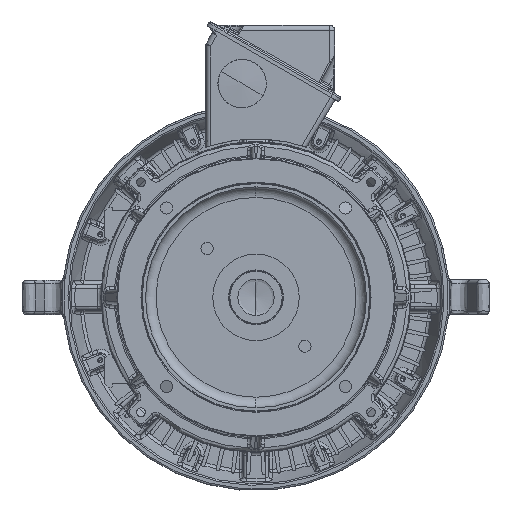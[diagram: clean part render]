
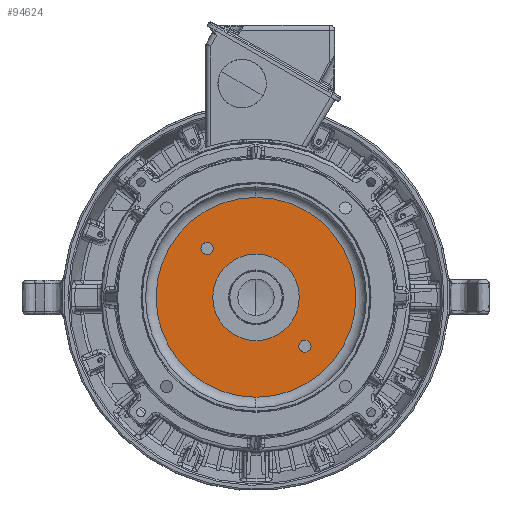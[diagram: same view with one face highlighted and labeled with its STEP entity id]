
A CAD part, front view. The second image highlights one B-rep face of the part: STEP entity #94624.
In plain terms, the highlighted planar face has unit normal (0, -1, 0) as drawn and (0, 0, -1) by its records, which use the part's own axes.
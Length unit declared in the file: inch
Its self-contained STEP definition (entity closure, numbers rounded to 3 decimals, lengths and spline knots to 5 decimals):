
#75605=CARTESIAN_POINT('',(0.,0.,-3.91));
#75606=DIRECTION('',(0.,0.,-1.));
#75607=DIRECTION('',(0.,1.,0.));
#75608=AXIS2_PLACEMENT_3D('',#75605,#75606,#75607);
#75610=CARTESIAN_POINT('',(0.,0.,-3.91));
#75611=DIRECTION('',(0.,0.,1.));
#75612=DIRECTION('',(0.,1.,0.));
#75613=AXIS2_PLACEMENT_3D('',#75610,#75611,#75612);
#75615=CARTESIAN_POINT('',(1.76777,1.76777,-3.91));
#75616=DIRECTION('',(0.,0.,-1.));
#75617=DIRECTION('',(-1.,0.,0.));
#75618=AXIS2_PLACEMENT_3D('',#75615,#75616,#75617);
#75620=CARTESIAN_POINT('',(1.76777,1.76777,-3.91));
#75621=DIRECTION('',(0.,0.,-1.));
#75622=DIRECTION('',(1.,0.,0.));
#75623=AXIS2_PLACEMENT_3D('',#75620,#75621,#75622);
#75625=CARTESIAN_POINT('',(-1.76777,-1.76777,-3.91));
#75626=DIRECTION('',(0.,0.,-1.));
#75627=DIRECTION('',(-1.,0.,0.));
#75628=AXIS2_PLACEMENT_3D('',#75625,#75626,#75627);
#75630=CARTESIAN_POINT('',(-1.76777,-1.76777,-3.91));
#75631=DIRECTION('',(0.,0.,-1.));
#75632=DIRECTION('',(1.,0.,0.));
#75633=AXIS2_PLACEMENT_3D('',#75630,#75631,#75632);
#75635=CARTESIAN_POINT('',(0.,0.,-3.91));
#75636=DIRECTION('',(0.,0.,1.));
#75637=DIRECTION('',(0.,1.,0.));
#75638=AXIS2_PLACEMENT_3D('',#75635,#75636,#75637);
#75640=CARTESIAN_POINT('',(0.,0.,-3.91));
#75641=DIRECTION('',(0.,0.,1.));
#75642=DIRECTION('',(0.,-1.,0.));
#75643=AXIS2_PLACEMENT_3D('',#75640,#75641,#75642);
#91124=CARTESIAN_POINT('',(0.,3.6094,-3.91));
#91126=VERTEX_POINT('',#91124);
#91128=CARTESIAN_POINT('',(0.,-3.6094,-3.91));
#91130=VERTEX_POINT('',#91128);
#91467=CARTESIAN_POINT('',(1.54877,1.76777,-3.91));
#91468=CARTESIAN_POINT('',(1.98677,1.76777,-3.91));
#91469=VERTEX_POINT('',#91467);
#91470=VERTEX_POINT('',#91468);
#91475=CARTESIAN_POINT('',(-1.98677,-1.76777,-3.91));
#91476=CARTESIAN_POINT('',(-1.54877,-1.76777,-3.91));
#91477=VERTEX_POINT('',#91475);
#91478=VERTEX_POINT('',#91476);
#91534=CARTESIAN_POINT('',(0.,1.5625,-3.91));
#91535=CARTESIAN_POINT('',(0.,-1.5625,-3.91));
#91536=VERTEX_POINT('',#91534);
#91537=VERTEX_POINT('',#91535);
#94596=CARTESIAN_POINT('',(0.,0.,-3.91));
#94597=DIRECTION('',(0.,0.,1.));
#94598=DIRECTION('',(0.,1.,0.));
#94599=AXIS2_PLACEMENT_3D('',#94596,#94597,#94598);
#94600=PLANE('',#94599);
#94602=ORIENTED_EDGE('',*,*,#94601,.F.);
#94604=ORIENTED_EDGE('',*,*,#94603,.T.);
#94605=EDGE_LOOP('',(#94602,#94604));
#94606=FACE_OUTER_BOUND('',#94605,.F.);
#94608=ORIENTED_EDGE('',*,*,#94607,.T.);
#94610=ORIENTED_EDGE('',*,*,#94609,.T.);
#94611=EDGE_LOOP('',(#94608,#94610));
#94612=FACE_BOUND('',#94611,.F.);
#94614=ORIENTED_EDGE('',*,*,#94613,.T.);
#94616=ORIENTED_EDGE('',*,*,#94615,.T.);
#94617=EDGE_LOOP('',(#94614,#94616));
#94618=FACE_BOUND('',#94617,.F.);
#94619=ORIENTED_EDGE('',*,*,#94586,.F.);
#94621=ORIENTED_EDGE('',*,*,#94620,.F.);
#94622=EDGE_LOOP('',(#94619,#94621));
#94623=FACE_BOUND('',#94622,.F.);
#94624=ADVANCED_FACE('',(#94606,#94612,#94618,#94623),#94600,.F.);
#75609=CIRCLE('',#75608,3.6094);
#75614=CIRCLE('',#75613,3.6094);
#75619=CIRCLE('',#75618,0.219);
#75624=CIRCLE('',#75623,0.219);
#75629=CIRCLE('',#75628,0.219);
#75634=CIRCLE('',#75633,0.219);
#75639=CIRCLE('',#75638,1.5625);
#75644=CIRCLE('',#75643,1.5625);
#94586=EDGE_CURVE('',#91536,#91537,#75639,.T.);
#94601=EDGE_CURVE('',#91126,#91130,#75609,.T.);
#94603=EDGE_CURVE('',#91126,#91130,#75614,.T.);
#94607=EDGE_CURVE('',#91469,#91470,#75619,.T.);
#94609=EDGE_CURVE('',#91470,#91469,#75624,.T.);
#94613=EDGE_CURVE('',#91477,#91478,#75629,.T.);
#94615=EDGE_CURVE('',#91478,#91477,#75634,.T.);
#94620=EDGE_CURVE('',#91537,#91536,#75644,.T.);
